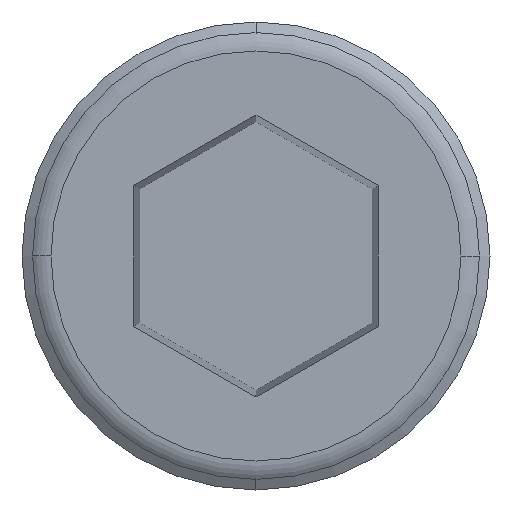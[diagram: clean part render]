
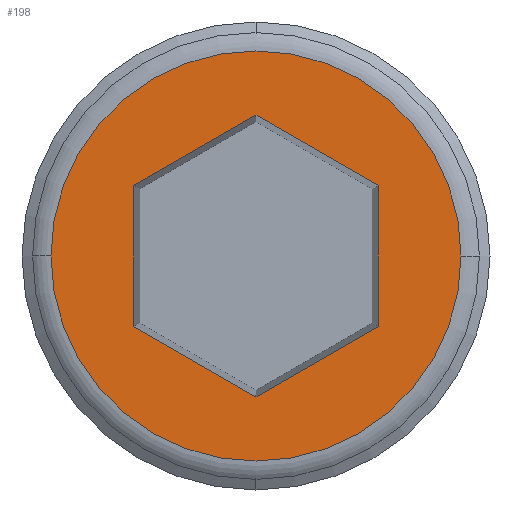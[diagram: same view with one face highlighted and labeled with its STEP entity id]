
A CAD part, left-side view. The second image highlights one B-rep face of the part: STEP entity #198.
In plain terms, the highlighted planar face has unit normal (-1, 0, 0).
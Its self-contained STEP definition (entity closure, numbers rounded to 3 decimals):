
#73=CARTESIAN_POINT('',(0.,-3.556,2.053));
#74=VERTEX_POINT('',#73);
#75=CARTESIAN_POINT('',(0.,0.,4.106));
#76=VERTEX_POINT('',#75);
#77=CARTESIAN_POINT('',(0.,-3.556,2.053));
#78=DIRECTION('',(0.,0.866,0.5));
#79=VECTOR('',#78,4.106);
#80=LINE('',#77,#79);
#81=EDGE_CURVE('',#74,#76,#80,.T.);
#113=CARTESIAN_POINT('',(0.,3.556,2.053));
#114=VERTEX_POINT('',#113);
#115=CARTESIAN_POINT('',(0.,0.,4.106));
#116=DIRECTION('',(0.,0.866,-0.5));
#117=VECTOR('',#116,4.106);
#118=LINE('',#115,#117);
#119=EDGE_CURVE('',#76,#114,#118,.T.);
#139=CARTESIAN_POINT('',(0.0,0.0,0.0));
#140=DIRECTION('',(1.0,0.0,0.0));
#141=DIRECTION('',(0.0,1.0,0.0));
#142=AXIS2_PLACEMENT_3D('',#139,#140,#141);
#143=PLANE('',#142);
#144=CARTESIAN_POINT('',(0.,-5.974,0.0));
#145=VERTEX_POINT('',#144);
#146=CARTESIAN_POINT('',(0.,5.974,0.));
#147=VERTEX_POINT('',#146);
#148=CARTESIAN_POINT('',(0.0,0.,0.0));
#149=DIRECTION('',(1.0,0.0,0.0));
#150=DIRECTION('',(0.0,0.0,1.0));
#151=AXIS2_PLACEMENT_3D('',#148,#149,#150);
#152=CIRCLE('',#151,5.974);
#153=EDGE_CURVE('',#145,#147,#152,.F.);
#154=ORIENTED_EDGE('',*,*,#153,.T.);
#155=CARTESIAN_POINT('',(0.0,0.,0.0));
#156=DIRECTION('',(1.0,0.0,0.0));
#157=DIRECTION('',(0.0,0.0,1.0));
#158=AXIS2_PLACEMENT_3D('',#155,#156,#157);
#159=CIRCLE('',#158,5.974);
#160=EDGE_CURVE('',#147,#145,#159,.F.);
#161=ORIENTED_EDGE('',*,*,#160,.T.);
#162=EDGE_LOOP('',(#154,#161));
#163=FACE_OUTER_BOUND('',#162,.T.);
#164=CARTESIAN_POINT('',(0.,0.,-4.106));
#165=VERTEX_POINT('',#164);
#166=CARTESIAN_POINT('',(0.,-3.556,-2.053));
#167=VERTEX_POINT('',#166);
#168=CARTESIAN_POINT('',(0.,0.,-4.106));
#169=DIRECTION('',(0.,-0.866,0.5));
#170=VECTOR('',#169,4.106);
#171=LINE('',#168,#170);
#172=EDGE_CURVE('',#165,#167,#171,.T.);
#173=ORIENTED_EDGE('',*,*,#172,.F.);
#174=CARTESIAN_POINT('',(0.,3.556,-2.053));
#175=VERTEX_POINT('',#174);
#176=CARTESIAN_POINT('',(0.,3.556,-2.053));
#177=DIRECTION('',(0.,-0.866,-0.5));
#178=VECTOR('',#177,4.106);
#179=LINE('',#176,#178);
#180=EDGE_CURVE('',#175,#165,#179,.T.);
#181=ORIENTED_EDGE('',*,*,#180,.F.);
#182=CARTESIAN_POINT('',(0.,3.556,2.053));
#183=DIRECTION('',(0.0,0.0,-1.0));
#184=VECTOR('',#183,4.106);
#185=LINE('',#182,#184);
#186=EDGE_CURVE('',#114,#175,#185,.T.);
#187=ORIENTED_EDGE('',*,*,#186,.F.);
#188=ORIENTED_EDGE('',*,*,#119,.F.);
#189=ORIENTED_EDGE('',*,*,#81,.F.);
#190=CARTESIAN_POINT('',(0.,-3.556,-2.053));
#191=DIRECTION('',(0.0,0.0,1.0));
#192=VECTOR('',#191,4.106);
#193=LINE('',#190,#192);
#194=EDGE_CURVE('',#167,#74,#193,.T.);
#195=ORIENTED_EDGE('',*,*,#194,.F.);
#196=EDGE_LOOP('',(#173,#181,#187,#188,#189,#195));
#197=FACE_BOUND('',#196,.T.);
#198=ADVANCED_FACE('',(#163,#197),#143,.F.);
